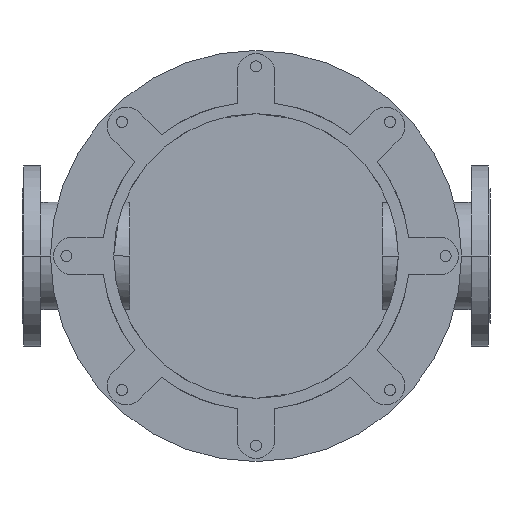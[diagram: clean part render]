
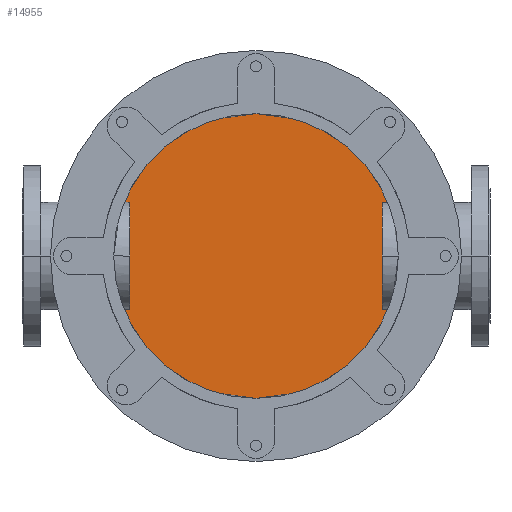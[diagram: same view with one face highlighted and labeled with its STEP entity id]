
A CAD part, front view. The second image highlights one B-rep face of the part: STEP entity #14955.
In plain terms, the highlighted planar face has unit normal (0, -1, 0).
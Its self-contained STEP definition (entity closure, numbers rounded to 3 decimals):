
#3900=CARTESIAN_POINT('',(0.,836.,0.));
#3901=DIRECTION('',(0.,-1.,0.));
#3902=DIRECTION('',(0.,0.,1.));
#3903=AXIS2_PLACEMENT_3D('',#3900,#3901,#3902);
#4027=CARTESIAN_POINT('',(0.,836.,0.));
#4028=DIRECTION('',(0.,-1.,0.));
#4029=DIRECTION('',(0.,0.,-1.));
#4030=AXIS2_PLACEMENT_3D('',#4027,#4028,#4029);
#9177=CARTESIAN_POINT('',(0.,836.,240.));
#9178=CARTESIAN_POINT('',(0.,836.,-240.));
#9179=VERTEX_POINT('',#9177);
#9180=VERTEX_POINT('',#9178);
#14945=CARTESIAN_POINT('',(0.,836.,0.));
#14946=DIRECTION('',(0.,1.,0.));
#14947=DIRECTION('',(0.,0.,-1.));
#14948=AXIS2_PLACEMENT_3D('',#14945,#14946,#14947);
#14949=PLANE('',#14948);
#14950=ORIENTED_EDGE('',*,*,#14929,.F.);
#14952=ORIENTED_EDGE('',*,*,#14951,.F.);
#14953=EDGE_LOOP('',(#14950,#14952));
#14954=FACE_OUTER_BOUND('',#14953,.F.);
#14955=ADVANCED_FACE('',(#14954),#14949,.F.);
#3904=CIRCLE('',#3903,240.);
#4031=CIRCLE('',#4030,240.);
#14929=EDGE_CURVE('',#9179,#9180,#3904,.T.);
#14951=EDGE_CURVE('',#9180,#9179,#4031,.T.);
